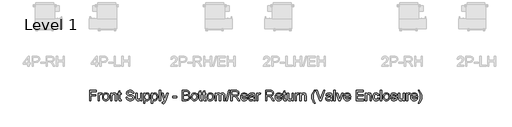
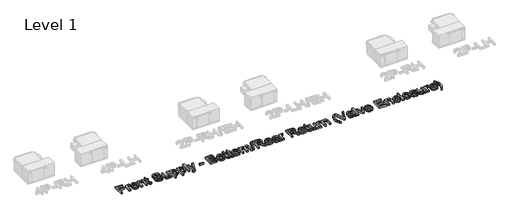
# One storey, part 4 of 5: 1 proxy.
"""IFC4 building model written with IfcOpenShell, lengths in millimetres."""

from ifc_helpers import new_model, si_unit, origin, origin_with_axes, place, context, project, spatial, polyline, outline, extrude, element, save

model = new_model("IFC4")

# Units and contexts
model_context = context("Model", 3, world=origin())
ifc_project = project(units=[si_unit("LENGTHUNIT", "METRE", prefix="MILLI")], contexts=[model_context])

# Site, building, storey
site = spatial("IfcSite", under=ifc_project)
building = spatial("IfcBuilding", under=site)
storey = spatial("IfcBuildingStorey", under=building, Name="Level 1", Elevation=0.0)

# Proxy
placement = place(None, origin())
element("IfcBuildingElementProxy", 1, Name="24\" Arial", ObjectType="24\" Arial", at=placement, inside=storey, context=model_context, shape_type="SweptSolid", body=[
    extrude(outline(polyline([(-10040.9186524, -10483.9809348), (-10040.9186524, -10179.4138407), (-9836.2876361, -10179.4138407), (-9836.2876361, -10217.4847274), (-10002.8477657, -10217.4847274), (-10002.8477657, -10307.9030835), (-9860.0819403, -10307.9030835), (-9860.0819403, -10345.9739703), (-10002.8477657, -10345.9739703), (-10002.8477657, -10483.9809348), (-10040.9186524, -10483.9809348)])), origin_with_axes(), (0.0, 0.0, 1.0), 50.8),
    extrude(outline(polyline([(-9788.6990277, -10483.9809348), (-9788.6990277, -10260.314475), (-9755.3870017, -10260.314475), (-9755.3870017, -10293.4034294), (-9743.080885, -10274.2192716), (-9731.7414119, -10262.9169771), (-9720.3647602, -10257.3959549), (-9707.9471077, -10255.5556142), (-9688.9860215, -10258.4927236), (-9669.7275065, -10267.3040519), (-9682.4425879, -10301.434007), (-9695.826884, -10295.5783775), (-9709.2111801, -10293.626501), (-9720.5785372, -10295.5040203), (-9730.7375897, -10301.1365782), (-9738.9447657, -10310.0966209), (-9744.4564932, -10321.9565944), (-9749.085229, -10343.2227538), (-9750.6281409, -10366.4222004), (-9750.6281409, -10483.9809348), (-9788.6990277, -10483.9809348)])), origin_with_axes(), (0.0, 0.0, 1.0), 50.8),
    extrude(outline(polyline([(-9655.450924, -10372.1477049), (-9653.392159, -10343.1809279), (-9647.215864, -10318.2201451), (-9636.9220391, -10297.2653565), (-9622.5106841, -10280.316562), (-9608.0017353, -10269.4836474), (-9591.9870532, -10261.7458512), (-9574.4666378, -10257.1031734), (-9555.4404891, -10255.5556142), (-9534.4369035, -10257.4401045), (-9515.4456097, -10263.0935754), (-9498.4666077, -10272.516027), (-9483.4998974, -10285.7074591), (-9471.2844035, -10302.2217286), (-9462.5590507, -10321.6126924), (-9457.3238391, -10343.8803503), (-9455.5787685, -10369.0247025), (-9458.6645924, -10407.4859645), (-9467.9220638, -10436.7641123), (-9483.0816381, -10458.6901919), (-9503.8737704, -10475.0952493), (-9528.5696557, -10485.328659), (-9555.4404891, -10488.7397956), (-9576.7507981, -10486.8622763), (-9595.9186902, -10481.2297183), (-9612.9441655, -10471.8421217), (-9627.8272239, -10458.6994865), (-9639.9125927, -10442.0248843), (-9648.544999, -10422.0413866), (-9653.7244428, -10398.7489935), (-9655.450924, -10372.1477049)]), holes=[polyline([(-9617.3800372, -10372.0733477), (-9612.9743731, -10406.5286156), (-9599.7573807, -10431.0757865), (-9579.8668295, -10445.7706282), (-9555.4404891, -10450.6689088), (-9531.1256844, -10445.7427443), (-9511.2723119, -10430.9642507), (-9498.0553194, -10406.091767), (-9493.6496553, -10370.8836325), (-9498.0832034, -10337.4321868), (-9511.3838477, -10313.2196233), (-9531.2651042, -10298.5247816), (-9555.4404891, -10293.626501), (-9579.8668295, -10298.5061923), (-9599.7573807, -10313.1452661), (-9612.9743731, -10337.6366691), (-9617.3800372, -10372.0733477)])]), origin_with_axes(), (0.0, 0.0, 1.0), 50.8),
    extrude(outline(polyline([(-9412.7490209, -10483.9809348), (-9412.7490209, -10260.314475), (-9374.6781342, -10260.314475), (-9374.6781342, -10291.5444993), (-9361.4518471, -10275.7993621), (-9345.5672901, -10264.5528355), (-9327.0244632, -10257.8049195), (-9305.8233663, -10255.5556142), (-9287.0574678, -10257.368071), (-9269.8716598, -10262.8054413), (-9255.5393093, -10271.1892157), (-9245.3337835, -10281.8408847), (-9233.9199532, -10309.8363707), (-9231.9123088, -10346.6431851), (-9231.9123088, -10483.9809348), (-9269.9831956, -10483.9809348), (-9269.9831956, -10351.7738319), (-9274.3702704, -10318.09002), (-9280.4396769, -10308.0610925), (-9289.8737468, -10300.2814704), (-9301.9660865, -10295.2902433), (-9316.0103028, -10293.626501), (-9338.3081684, -10297.3629503), (-9357.3157278, -10308.5722983), (-9364.9117806, -10317.7228813), (-9370.3375326, -10330.228833), (-9374.6781342, -10365.3068424), (-9374.6781342, -10483.9809348), (-9412.7490209, -10483.9809348)])), origin_with_axes(), (0.0, 0.0, 1.0), 50.8),
    extrude(outline(polyline([(-9098.6642052, -10452.2304101), (-9093.9053443, -10485.0962928), (-9122.3841522, -10488.7397956), (-9140.6574343, -10487.1597051), (-9154.2833913, -10482.4194335), (-9163.9126488, -10475.1138386), (-9170.1958322, -10465.8377778), (-9173.6534421, -10449.9067475), (-9174.8059787, -10422.6362442), (-9174.8059787, -10298.3853618), (-9203.3591438, -10298.3853618), (-9203.3591438, -10260.314475), (-9174.8059787, -10260.314475), (-9174.8059787, -10205.9593613), (-9136.7350919, -10183.5778439), (-9136.7350919, -10260.314475), (-9098.6642052, -10260.314475), (-9098.6642052, -10298.3853618), (-9136.7350919, -10298.3853618), (-9136.7350919, -10421.5208862), (-9134.7274475, -10441.1511872), (-9128.2211924, -10448.1035854), (-9115.2458609, -10450.6689088), (-9098.6642052, -10452.2304101)])), origin_with_axes(), (0.0, 0.0, 1.0), 50.8),
    extrude(outline(polyline([(-8951.139519, -10379.2859962), (-8913.0686322, -10379.2859962), (-8908.7001467, -10400.4127358), (-8900.7996941, -10417.3940615), (-8888.4749881, -10430.8713042), (-8870.8337422, -10441.4857946), (-8849.270154, -10448.3731303), (-8825.178421, -10450.6689088), (-8803.9680295, -10448.9308093), (-8785.3973186, -10443.7165106), (-8770.3492801, -10435.4628613), (-8759.7069058, -10424.60671), (-8753.3772491, -10412.1425842), (-8751.2673635, -10399.0650116), (-8752.847454, -10386.3220463), (-8757.5877256, -10375.3078859), (-8767.216983, -10365.9109947), (-8783.4640314, -10358.0198368), (-8838.8973245, -10343.483004), (-8875.2858796, -10333.8630412), (-8898.5689781, -10324.7078109), (-8917.5207696, -10311.899783), (-8930.951539, -10296.3777174), (-8938.9542327, -10278.4762213), (-8941.6217973, -10258.5299022), (-8938.3221965, -10236.2320367), (-8928.4233942, -10215.4399044), (-8912.1856405, -10197.8172479), (-8889.8691856, -10185.0278093), (-8863.082004, -10177.2481872), (-8833.4320703, -10174.6549798), (-8801.3097596, -10177.3690177), (-8773.2027377, -10185.5111311), (-8750.1148269, -10198.9140166), (-8733.0498493, -10217.4103702), (-8722.2494659, -10239.8476556), (-8717.9553376, -10265.0733359), (-8756.0262243, -10265.0733359), (-8763.0158012, -10242.3572111), (-8777.5898125, -10225.9614483), (-8800.3617053, -10216.034762), (-8831.9449263, -10212.7258666), (-8864.2717193, -10215.9975834), (-8886.4487544, -10225.8127339), (-8899.2753715, -10240.2566202), (-8903.5509105, -10257.4145442), (-8900.5208546, -10272.0443235), (-8891.4306868, -10283.8113505), (-8869.9414558, -10294.3328944), (-8829.268067, -10305.0775099), (-8787.2934272, -10315.2830357), (-8761.9004432, -10324.1873105), (-8740.1974352, -10337.9991605), (-8725.0564502, -10355.0455487), (-8716.1614701, -10375.1405822), (-8713.1964767, -10398.0983679), (-8716.6076133, -10421.5673594), (-8726.8410231, -10443.6421534), (-8743.4784467, -10462.6404182), (-8766.101625, -10476.8798221), (-8793.3070658, -10485.7748022), (-8823.691277, -10488.7397956), (-8860.9907078, -10485.542436), (-8891.690937, -10475.9503571), (-8916.1451614, -10459.9263803), (-8934.7065776, -10437.4333271), (-8946.622319, -10410.0326987), (-8951.139519, -10379.2859962)])), origin_with_axes(), (0.0, 0.0, 1.0), 50.8),
    extrude(outline(polyline([(-8518.0831821, -10483.9809348), (-8518.0831821, -10445.538262), (-8531.8578535, -10464.4389329), (-8547.9004196, -10477.9394122), (-8566.2108802, -10486.0396997), (-8586.7892355, -10488.7397956), (-8605.3320625, -10486.843687), (-8622.5922277, -10481.1553611), (-8637.0732925, -10472.604283), (-8647.2788183, -10462.1199177), (-8654.1475647, -10449.3862471), (-8658.6182914, -10434.0872531), (-8660.8490074, -10398.6932256), (-8660.8490074, -10260.314475), (-8622.7781207, -10260.314475), (-8622.7781207, -10380.7731402), (-8620.4730475, -10419.5875989), (-8614.9241414, -10432.5350465), (-8605.4157143, -10442.378081), (-8592.5798025, -10448.5962019), (-8577.0484423, -10450.6689088), (-8560.6247955, -10448.5497286), (-8545.260739, -10442.192188), (-8532.5921309, -10432.1818498), (-8524.2548298, -10419.1042771), (-8519.626094, -10401.1934864), (-8518.0831821, -10376.6834941), (-8518.0831821, -10260.314475), (-8480.0122953, -10260.314475), (-8480.0122953, -10483.9809348), (-8518.0831821, -10483.9809348)])), origin_with_axes(), (0.0, 0.0, 1.0), 50.8),
    extrude(outline(polyline([(-8427.664826, -10569.64043), (-8427.664826, -10260.314475), (-8389.5939393, -10260.314475), (-8389.5939393, -10297.6417898), (-8377.1762868, -10279.229088), (-8363.2714902, -10266.0771581), (-8347.0616205, -10258.1860002), (-8327.7287483, -10255.5556142), (-8301.9825676, -10259.2362956), (-8279.470925, -10270.2783399), (-8261.1418751, -10288.0125323), (-8247.943472, -10311.7696579), (-8239.9686622, -10339.8209119), (-8237.3103923, -10370.4374893), (-8240.3125642, -10402.9966485), (-8249.3190802, -10432.1167873), (-8264.0418059, -10456.3200561), (-8284.1926073, -10474.1286057), (-8307.6615988, -10485.0869981), (-8332.3388947, -10488.7397956), (-8349.8407209, -10486.2953026), (-8365.4650277, -10478.9618237), (-8378.8400291, -10467.8918955), (-8389.5939393, -10454.2380545), (-8389.5939393, -10569.64043), (-8427.664826, -10569.64043)]), holes=[polyline([(-8389.5939393, -10373.9322777), (-8385.4764093, -10408.0622328), (-8373.1238193, -10431.9308943), (-8354.8970105, -10445.9844052), (-8333.156824, -10450.6689088), (-8311.0634407, -10445.8171015), (-8292.3718994, -10431.2616795), (-8279.6289341, -10406.5193209), (-8275.381279, -10371.1067041), (-8279.526693, -10337.162642), (-8291.9629348, -10312.9593731), (-8310.1618596, -10298.459719), (-8331.5953227, -10293.626501), (-8353.1124377, -10298.7664425), (-8372.0084613, -10314.186267), (-8385.1975698, -10339.4026526), (-8389.5939393, -10373.9322777)])]), origin_with_axes(), (0.0, 0.0, 1.0), 50.8),
    extrude(outline(polyline([(-8194.4806446, -10569.64043), (-8194.4806446, -10260.314475), (-8156.4097579, -10260.314475), (-8156.4097579, -10297.6417898), (-8143.9921054, -10279.229088), (-8130.0873088, -10266.0771581), (-8113.8774391, -10258.1860002), (-8094.5445669, -10255.5556142), (-8068.7983862, -10259.2362956), (-8046.2867437, -10270.2783399), (-8027.9576937, -10288.0125323), (-8014.7592906, -10311.7696579), (-8006.7844808, -10339.8209119), (-8004.1262109, -10370.4374893), (-8007.1283828, -10402.9966485), (-8016.1348988, -10432.1167873), (-8030.8576245, -10456.3200561), (-8051.0084259, -10474.1286057), (-8074.4774174, -10485.0869981), (-8099.1547134, -10488.7397956), (-8116.6565395, -10486.2953026), (-8132.2808463, -10478.9618237), (-8145.6558477, -10467.8918955), (-8156.4097579, -10454.2380545), (-8156.4097579, -10569.64043), (-8194.4806446, -10569.64043)]), holes=[polyline([(-8156.4097579, -10373.9322777), (-8152.2922279, -10408.0622328), (-8139.9396379, -10431.9308943), (-8121.7128291, -10445.9844052), (-8099.9726426, -10450.6689088), (-8077.8792593, -10445.8171015), (-8059.187718, -10431.2616795), (-8046.4447527, -10406.5193209), (-8042.1970976, -10371.1067041), (-8046.3425116, -10337.162642), (-8058.7787534, -10312.9593731), (-8076.9776782, -10298.459719), (-8098.4111413, -10293.626501), (-8119.9282563, -10298.7664425), (-8138.8242799, -10314.186267), (-8152.0133884, -10339.4026526), (-8156.4097579, -10373.9322777)])]), origin_with_axes(), (0.0, 0.0, 1.0), 50.8),
    extrude(outline(polyline([(-7961.2964633, -10483.9809348), (-7961.2964633, -10179.4138407), (-7923.2255765, -10179.4138407), (-7923.2255765, -10483.9809348), (-7961.2964633, -10483.9809348)])), origin_with_axes(), (0.0, 0.0, 1.0), 50.8),
    extrude(outline(polyline([(-7866.1192464, -10569.64043), (-7870.8781072, -10532.98233), (-7851.545235, -10536.328404), (-7833.4764352, -10532.1272222), (-7822.3972123, -10520.4159631), (-7811.9872042, -10492.3832984), (-7809.0129162, -10483.1630055), (-7889.9135506, -10260.314475), (-7849.7606622, -10260.314475), (-7806.8565574, -10384.4910002), (-7791.9107601, -10434.1616103), (-7776.9649627, -10390.2908619), (-7732.8711427, -10260.314475), (-7693.0156831, -10260.314475), (-7770.8676723, -10489.3346532), (-7791.0928309, -10539.0052633), (-7801.447071, -10554.8619363), (-7813.1769195, -10565.8482127), (-7826.8028765, -10572.2615213), (-7842.8454425, -10574.3992908), (-7866.1192464, -10569.64043)])), origin_with_axes(), (0.0, 0.0, 1.0), 50.8),
    extrude(outline(polyline([(-7561.5521523, -10393.5625787), (-7561.5521523, -10355.4916919), (-7442.5806312, -10355.4916919), (-7442.5806312, -10393.5625787), (-7561.5521523, -10393.5625787)])), origin_with_axes(), (0.0, 0.0, 1.0), 50.8),
    extrude(outline(polyline([(-7276.0205016, -10483.9809348), (-7276.0205016, -10179.4138407), (-7159.8001969, -10179.4138407), (-7127.8358953, -10181.6538514), (-7102.8797598, -10188.3738834), (-7083.7513699, -10199.7412404), (-7069.2703051, -10215.9232262), (-7060.1522533, -10234.9586696), (-7057.1129027, -10254.8863994), (-7059.6689315, -10273.224744), (-7067.3370178, -10290.4663199), (-7080.1729296, -10305.551537), (-7098.2324347, -10317.4208052), (-7076.6595519, -10328.6859211), (-7060.719227, -10345.8252559), (-7050.8761925, -10367.7048622), (-7047.595181, -10393.1907927), (-7049.8351917, -10414.4290682), (-7056.5552237, -10434.1244317), (-7066.5841512, -10450.8733911), (-7078.7508481, -10463.2724544), (-7093.6501722, -10472.2510863), (-7111.8769811, -10478.7387521), (-7160.6924833, -10483.9809348), (-7276.0205016, -10483.9809348)]), holes=[polyline([(-7237.9496148, -10303.1442227), (-7168.4256322, -10303.1442227), (-7127.8266006, -10299.8725058), (-7113.6150806, -10294.2306532), (-7103.4002602, -10285.7818163), (-7097.2379072, -10274.6561201), (-7095.1837895, -10260.9836899), (-7097.0984874, -10247.7109295), (-7102.8425812, -10236.1483848), (-7112.1558206, -10227.1232796), (-7124.7779554, -10221.4628377), (-7173.7049934, -10217.4847274), (-7237.9496148, -10217.4847274), (-7237.9496148, -10303.1442227)]), polyline([(-7237.9496148, -10445.910048), (-7159.8745541, -10445.910048), (-7131.6188178, -10444.422904), (-7107.7129778, -10436.1320761), (-7091.8748941, -10419.2158129), (-7087.2182744, -10407.2628929), (-7085.6660678, -10393.5625787), (-7087.4878192, -10377.6501378), (-7092.9530735, -10363.9684128), (-7102.4986791, -10353.2702706), (-7116.5614847, -10346.3085777), (-7136.4799198, -10342.4884765), (-7163.5924141, -10341.2151094), (-7237.9496148, -10341.2151094), (-7237.9496148, -10445.910048)])]), origin_with_axes(), (0.0, 0.0, 1.0), 50.8),
    extrude(outline(polyline([(-7009.5242943, -10372.1477049), (-7007.4655293, -10343.1809279), (-7001.2892343, -10318.2201451), (-6990.9954093, -10297.2653565), (-6976.5840544, -10280.316562), (-6962.0751056, -10269.4836474), (-6946.0604235, -10261.7458512), (-6928.5400081, -10257.1031734), (-6909.5138593, -10255.5556142), (-6888.5102738, -10257.4401045), (-6869.51898, -10263.0935754), (-6852.539978, -10272.516027), (-6837.5732677, -10285.7074591), (-6825.3577738, -10302.2217286), (-6816.632421, -10321.6126924), (-6811.3972094, -10343.8803503), (-6809.6521388, -10369.0247025), (-6812.7379626, -10407.4859645), (-6821.9954341, -10436.7641123), (-6837.1550084, -10458.6901919), (-6857.9471407, -10475.0952493), (-6882.6430259, -10485.328659), (-6909.5138593, -10488.7397956), (-6930.8241683, -10486.8622763), (-6949.9920605, -10481.2297183), (-6967.0175358, -10471.8421217), (-6981.9005942, -10458.6994865), (-6993.985963, -10442.0248843), (-7002.6183693, -10422.0413866), (-7007.797813, -10398.7489935), (-7009.5242943, -10372.1477049)]), holes=[polyline([(-6971.4534075, -10372.0733477), (-6967.0477434, -10406.5286156), (-6953.830751, -10431.0757865), (-6933.9401998, -10445.7706282), (-6909.5138593, -10450.6689088), (-6885.1990547, -10445.7427443), (-6865.3456821, -10430.9642507), (-6852.1286897, -10406.091767), (-6847.7230256, -10370.8836325), (-6852.1565737, -10337.4321868), (-6865.4572179, -10313.2196233), (-6885.3384745, -10298.5247816), (-6909.5138593, -10293.626501), (-6933.9401998, -10298.5061923), (-6953.830751, -10313.1452661), (-6967.0477434, -10337.6366691), (-6971.4534075, -10372.0733477)])]), origin_with_axes(), (0.0, 0.0, 1.0), 50.8),
    extrude(outline(polyline([(-6685.9217568, -10452.2304101), (-6681.162896, -10485.0962928), (-6709.6417039, -10488.7397956), (-6727.9149859, -10487.1597051), (-6741.540943, -10482.4194335), (-6751.1702005, -10475.1138386), (-6757.4533839, -10465.8377778), (-6760.9109937, -10449.9067475), (-6762.0635304, -10422.6362442), (-6762.0635304, -10298.3853618), (-6790.6166954, -10298.3853618), (-6790.6166954, -10260.314475), (-6762.0635304, -10260.314475), (-6762.0635304, -10205.9593613), (-6723.9926436, -10183.5778439), (-6723.9926436, -10260.314475), (-6685.9217568, -10260.314475), (-6685.9217568, -10298.3853618), (-6723.9926436, -10298.3853618), (-6723.9926436, -10421.5208862), (-6721.9849992, -10441.1511872), (-6715.4787441, -10448.1035854), (-6702.5034126, -10450.6689088), (-6685.9217568, -10452.2304101)])), origin_with_axes(), (0.0, 0.0, 1.0), 50.8),
    extrude(outline(polyline([(-6566.9502357, -10452.2304101), (-6562.1913749, -10485.0962928), (-6590.6701827, -10488.7397956), (-6608.9434648, -10487.1597051), (-6622.5694218, -10482.4194335), (-6632.1986793, -10475.1138386), (-6638.4818628, -10465.8377778), (-6641.9394726, -10449.9067475), (-6643.0920092, -10422.6362442), (-6643.0920092, -10298.3853618), (-6671.6451743, -10298.3853618), (-6671.6451743, -10260.314475), (-6643.0920092, -10260.314475), (-6643.0920092, -10205.9593613), (-6605.0211225, -10183.5778439), (-6605.0211225, -10260.314475), (-6566.9502357, -10260.314475), (-6566.9502357, -10298.3853618), (-6605.0211225, -10298.3853618), (-6605.0211225, -10421.5208862), (-6603.0134781, -10441.1511872), (-6596.507223, -10448.1035854), (-6583.5318915, -10450.6689088), (-6566.9502357, -10452.2304101)])), origin_with_axes(), (0.0, 0.0, 1.0), 50.8),
    extrude(outline(polyline([(-6538.3970707, -10372.1477049), (-6536.3383057, -10343.1809279), (-6530.1620107, -10318.2201451), (-6519.8681857, -10297.2653565), (-6505.4568307, -10280.316562), (-6490.947882, -10269.4836474), (-6474.9331999, -10261.7458512), (-6457.4127844, -10257.1031734), (-6438.3866357, -10255.5556142), (-6417.3830502, -10257.4401045), (-6398.3917564, -10263.0935754), (-6381.4127543, -10272.516027), (-6366.446044, -10285.7074591), (-6354.2305502, -10302.2217286), (-6345.5051974, -10321.6126924), (-6340.2699857, -10343.8803503), (-6338.5249152, -10369.0247025), (-6341.610739, -10407.4859645), (-6350.8682105, -10436.7641123), (-6366.0277848, -10458.6901919), (-6386.819917, -10475.0952493), (-6411.5158023, -10485.328659), (-6438.3866357, -10488.7397956), (-6459.6969447, -10486.8622763), (-6478.8648368, -10481.2297183), (-6495.8903121, -10471.8421217), (-6510.7733706, -10458.6994865), (-6522.8587394, -10442.0248843), (-6531.4911456, -10422.0413866), (-6536.6705894, -10398.7489935), (-6538.3970707, -10372.1477049)]), holes=[polyline([(-6500.3261839, -10372.0733477), (-6495.9205198, -10406.5286156), (-6482.7035273, -10431.0757865), (-6462.8129761, -10445.7706282), (-6438.3866357, -10450.6689088), (-6414.0718311, -10445.7427443), (-6394.2184585, -10430.9642507), (-6381.0014661, -10406.091767), (-6376.5958019, -10370.8836325), (-6381.02935, -10337.4321868), (-6394.3299943, -10313.2196233), (-6414.2112508, -10298.5247816), (-6438.3866357, -10293.626501), (-6462.8129761, -10298.5061923), (-6482.7035273, -10313.1452661), (-6495.9205198, -10337.6366691), (-6500.3261839, -10372.0733477)])]), origin_with_axes(), (0.0, 0.0, 1.0), 50.8),
    extrude(outline(polyline([(-6295.6951676, -10483.9809348), (-6295.6951676, -10260.314475), (-6257.6242808, -10260.314475), (-6257.6242808, -10297.1212894), (-6246.1732719, -10280.2143209), (-6231.4505462, -10266.9694445), (-6213.9580147, -10258.4090718), (-6194.1975886, -10255.5556142), (-6173.0243757, -10258.4648397), (-6156.0523447, -10267.1925161), (-6143.3744419, -10281.1623752), (-6135.0836141, -10299.7981486), (-6121.2067015, -10280.4420398), (-6105.3779124, -10266.6162478), (-6087.5972468, -10258.3207726), (-6067.8647046, -10255.5556142), (-6039.246477, -10260.156466), (-6018.0825588, -10273.9590214), (-6005.0049861, -10297.3350663), (-6000.6457952, -10330.6563869), (-6000.6457952, -10483.9809348), (-6038.7166819, -10483.9809348), (-6038.7166819, -10347.0149711), (-6042.248649, -10315.2272678), (-6047.2119921, -10306.4624127), (-6055.0380875, -10299.575077), (-6065.1041935, -10295.113645), (-6076.7875687, -10293.626501), (-6097.4123972, -10297.4373075), (-6114.2264193, -10308.8697271), (-6125.4078833, -10328.7045104), (-6129.135038, -10357.722408), (-6129.135038, -10483.9809348), (-6167.2059248, -10483.9809348), (-6167.2059248, -10342.7766106), (-6169.4087568, -10321.250201), (-6176.017253, -10305.8954391), (-6187.6448603, -10296.6937355), (-6204.9050255, -10293.626501), (-6219.5719834, -10295.671324), (-6233.0864046, -10301.805793), (-6244.2399847, -10311.8811937), (-6251.8244192, -10325.7488117), (-6256.1743154, -10344.9887373), (-6257.6242808, -10371.1810613), (-6257.6242808, -10483.9809348), (-6295.6951676, -10483.9809348)])), origin_with_axes(), (0.0, 0.0, 1.0), 50.8),
    extrude(outline(polyline([(-5972.0926301, -10483.9809348), (-5886.4331349, -10179.4138407), (-5852.0801082, -10179.4138407), (-5937.7396034, -10483.9809348), (-5972.0926301, -10483.9809348)])), origin_with_axes(), (0.0, 0.0, 1.0), 50.8),
    extrude(outline(polyline([(-5819.8090831, -10483.9809348), (-5819.8090831, -10179.4138407), (-5688.5686238, -10179.4138407), (-5653.2954268, -10181.4679584), (-5627.6328979, -10187.6303114), (-5608.876294, -10199.0069631), (-5594.320872, -10216.7039768), (-5584.9797486, -10238.6486457), (-5581.8660408, -10262.7682627), (-5587.0245716, -10292.7713932), (-5602.500164, -10317.6438768), (-5614.2230415, -10327.7796927), (-5628.7575505, -10335.8799803), (-5666.2614636, -10345.9739703), (-5644.6235182, -10362.2581972), (-5613.7652799, -10401.444442), (-5562.9793119, -10483.9809348), (-5607.2218463, -10483.9809348), (-5646.8542343, -10420.8516714), (-5675.4817565, -10379.0629246), (-5695.5953793, -10359.3210878), (-5713.7013577, -10352.0712607), (-5735.7854463, -10350.7328311), (-5781.7381963, -10350.7328311), (-5781.7381963, -10483.9809348), (-5819.8090831, -10483.9809348)]), holes=[polyline([(-5781.7381963, -10312.6619443), (-5696.5248443, -10312.6619443), (-5672.0520306, -10311.3142201), (-5653.0630605, -10307.2710473), (-5638.7678887, -10300.2628811), (-5628.3764699, -10290.0201767), (-5622.0468132, -10277.6304082), (-5619.9369276, -10264.1810495), (-5623.9615111, -10245.6103386), (-5636.0352616, -10230.645952), (-5656.8088045, -10220.7750336), (-5686.9327654, -10217.4847274), (-5781.7381963, -10217.4847274), (-5781.7381963, -10312.6619443)])]), origin_with_axes(), (0.0, 0.0, 1.0), 50.8),
    extrude(outline(polyline([(-5363.4045852, -10417.3568829), (-5326.0772704, -10422.1157438), (-5339.5266291, -10450.2413549), (-5360.9879762, -10471.2658534), (-5389.9779898, -10484.3713101), (-5426.0133482, -10488.7397956), (-5449.6357014, -10486.8553053), (-5470.6834365, -10481.2018344), (-5489.1565535, -10471.7793829), (-5505.0550525, -10458.5879507), (-5517.8398437, -10441.9946766), (-5526.9718374, -10422.3666993), (-5532.4510337, -10399.7040187), (-5534.2774324, -10374.0066349), (-5532.4324444, -10347.4378776), (-5526.8974802, -10324.0200067), (-5517.67254, -10303.7530222), (-5504.7576237, -10286.6369241), (-5488.9009507, -10273.038851), (-5470.8507402, -10263.3259417), (-5450.6069923, -10257.4981961), (-5428.169707, -10255.5556142), (-5406.4550807, -10257.4935487), (-5386.8178088, -10263.3073524), (-5369.2578911, -10272.9970251), (-5353.7753277, -10286.5625669), (-5341.1369272, -10303.6414864), (-5332.1094983, -10323.8712923), (-5326.693041, -10347.2519846), (-5324.8875552, -10373.7835633), (-5325.1106268, -10384.044857), (-5496.2065456, -10384.044857), (-5489.6166387, -10412.5422542), (-5474.30835, -10433.4923955), (-5452.2149668, -10446.3747805), (-5425.2697762, -10450.6689088), (-5405.007439, -10448.6798537), (-5387.9424614, -10442.7126884), (-5374.0748435, -10432.3956268), (-5363.4045852, -10417.3568829)]), holes=[polyline([(-5496.2065456, -10345.9739703), (-5362.958442, -10345.9739703), (-5368.1076781, -10325.8603475), (-5378.2016681, -10311.4722291), (-5400.3972925, -10298.087933), (-5428.3184214, -10293.626501), (-5453.9809503, -10297.1863519), (-5475.2006364, -10307.8659049), (-5489.9512461, -10324.5126232), (-5496.2065456, -10345.9739703)])]), origin_with_axes(), (0.0, 0.0, 1.0), 50.8),
    extrude(outline(polyline([(-5144.0508431, -10455.4277697), (-5162.2404733, -10471.0241925), (-5180.9691933, -10481.2297183), (-5200.6645568, -10486.8622763), (-5221.7541179, -10488.7397956), (-5253.5697051, -10484.2225957), (-5277.0386966, -10470.6709958), (-5291.5104668, -10450.0926405), (-5296.3343902, -10424.4951742), (-5294.5126387, -10408.7128583), (-5289.0473845, -10394.3805079), (-5280.6171369, -10382.1115698), (-5269.9004053, -10372.5194909), (-5243.2433489, -10360.0274812), (-5210.3031089, -10354.3019767), (-5171.3771144, -10348.2790435), (-5144.2739147, -10341.2151094), (-5144.0508431, -10332.7383885), (-5146.6719344, -10315.7477682), (-5154.5352084, -10304.6313667), (-5172.1206864, -10296.3777174), (-5196.621384, -10293.626501), (-5219.3003302, -10295.457547), (-5235.138414, -10300.9506852), (-5245.9387974, -10311.1097378), (-5253.5046426, -10326.9385269), (-5291.5755293, -10322.179666), (-5284.9670331, -10301.3596498), (-5275.1054094, -10285.0010657), (-5261.0704877, -10272.4904667), (-5241.9420978, -10263.2144059), (-5218.5474636, -10257.4703121), (-5191.7138088, -10255.5556142), (-5165.9769227, -10257.2472405), (-5145.5751657, -10262.3221195), (-5130.1925198, -10269.9530272), (-5119.5129669, -10279.3127398), (-5112.4304435, -10290.8845792), (-5107.8388864, -10305.1518671), (-5105.9799564, -10338.463893), (-5105.9799564, -10385.8294298), (-5104.0466691, -10451.9701599), (-5096.4622347, -10483.9809348), (-5134.5331214, -10483.9809348), (-5140.6304119, -10470.745353), (-5144.0508431, -10455.4277697)]), holes=[polyline([(-5144.0508431, -10379.2859962), (-5205.4698909, -10390.9600767), (-5238.2242378, -10397.1317243), (-5253.0584993, -10407.1699464), (-5258.2635034, -10421.818315), (-5255.4286351, -10433.1391988), (-5246.9240303, -10442.4152596), (-5232.9355819, -10448.6054965), (-5213.649183, -10450.6689088), (-5193.2009528, -10448.3917196), (-5175.132153, -10441.5601518), (-5160.4837845, -10431.4940457), (-5150.296848, -10419.5132417), (-5145.779648, -10407.1699464), (-5144.2739147, -10390.0677903), (-5144.0508431, -10379.2859962)])]), origin_with_axes(), (0.0, 0.0, 1.0), 50.8),
    extrude(outline(polyline([(-5053.6324871, -10483.9809348), (-5053.6324871, -10260.314475), (-5020.3204612, -10260.314475), (-5020.3204612, -10293.4034294), (-5008.0143444, -10274.2192716), (-4996.6748713, -10262.9169771), (-4985.2982196, -10257.3959549), (-4972.8805671, -10255.5556142), (-4953.9194809, -10258.4927236), (-4934.6609659, -10267.3040519), (-4947.3760473, -10301.434007), (-4960.7603434, -10295.5783775), (-4974.1446395, -10293.626501), (-4985.5119966, -10295.5040203), (-4995.6710491, -10301.1365782), (-5003.8782252, -10310.0966209), (-5009.3899527, -10321.9565944), (-5014.0186884, -10343.2227538), (-5015.5616003, -10366.4222004), (-5015.5616003, -10483.9809348), (-5053.6324871, -10483.9809348)])), origin_with_axes(), (0.0, 0.0, 1.0), 50.8),
    extrude(outline(polyline([(-4787.1362798, -10483.9809348), (-4787.1362798, -10179.4138407), (-4655.8958205, -10179.4138407), (-4620.6226234, -10181.4679584), (-4594.9600945, -10187.6303114), (-4576.2034907, -10199.0069631), (-4561.6480686, -10216.7039768), (-4552.3069453, -10238.6486457), (-4549.1932375, -10262.7682627), (-4554.3517683, -10292.7713932), (-4569.8273607, -10317.6438768), (-4581.5502381, -10327.7796927), (-4596.0847472, -10335.8799803), (-4633.5886603, -10345.9739703), (-4611.9507149, -10362.2581972), (-4581.0924766, -10401.444442), (-4530.3065085, -10483.9809348), (-4574.549043, -10483.9809348), (-4614.1814309, -10420.8516714), (-4642.8089532, -10379.0629246), (-4662.922576, -10359.3210878), (-4681.0285544, -10352.0712607), (-4703.112643, -10350.7328311), (-4749.065393, -10350.7328311), (-4749.065393, -10483.9809348), (-4787.1362798, -10483.9809348)]), holes=[polyline([(-4749.065393, -10312.6619443), (-4663.852041, -10312.6619443), (-4639.3792273, -10311.3142201), (-4620.3902572, -10307.2710473), (-4606.0950854, -10300.2628811), (-4595.7036666, -10290.0201767), (-4589.3740098, -10277.6304082), (-4587.2641243, -10264.1810495), (-4591.2887078, -10245.6103386), (-4603.3624582, -10230.645952), (-4624.1360012, -10220.7750336), (-4654.2599621, -10217.4847274), (-4749.065393, -10217.4847274), (-4749.065393, -10312.6619443)])]), origin_with_axes(), (0.0, 0.0, 1.0), 50.8),
    extrude(outline(polyline([(-4330.7317819, -10417.3568829), (-4293.4044671, -10422.1157438), (-4306.8538258, -10450.2413549), (-4328.3151728, -10471.2658534), (-4357.3051865, -10484.3713101), (-4393.3405449, -10488.7397956), (-4416.962898, -10486.8553053), (-4438.0106332, -10481.2018344), (-4456.4837502, -10471.7793829), (-4472.3822492, -10458.5879507), (-4485.1670404, -10441.9946766), (-4494.2990341, -10422.3666993), (-4499.7782303, -10399.7040187), (-4501.6046291, -10374.0066349), (-4499.759641, -10347.4378776), (-4494.2246769, -10324.0200067), (-4484.9997367, -10303.7530222), (-4472.0848204, -10286.6369241), (-4456.2281473, -10273.038851), (-4438.1779369, -10263.3259417), (-4417.934189, -10257.4981961), (-4395.4969037, -10255.5556142), (-4373.7822774, -10257.4935487), (-4354.1450054, -10263.3073524), (-4336.5850878, -10272.9970251), (-4321.1025244, -10286.5625669), (-4308.4641239, -10303.6414864), (-4299.436695, -10323.8712923), (-4294.0202377, -10347.2519846), (-4292.2147519, -10373.7835633), (-4292.4378235, -10384.044857), (-4463.5337423, -10384.044857), (-4456.9438354, -10412.5422542), (-4441.6355467, -10433.4923955), (-4419.5421634, -10446.3747805), (-4392.5969728, -10450.6689088), (-4372.3346357, -10448.6798537), (-4355.2696581, -10442.7126884), (-4341.4020402, -10432.3956268), (-4330.7317819, -10417.3568829)]), holes=[polyline([(-4463.5337423, -10345.9739703), (-4330.2856387, -10345.9739703), (-4335.4348748, -10325.8603475), (-4345.5288648, -10311.4722291), (-4367.7244892, -10298.087933), (-4395.6456181, -10293.626501), (-4421.308147, -10297.1863519), (-4442.5278331, -10307.8659049), (-4457.2784428, -10324.5126232), (-4463.5337423, -10345.9739703)])]), origin_with_axes(), (0.0, 0.0, 1.0), 50.8),
    extrude(outline(polyline([(-4173.2432308, -10452.2304101), (-4168.4843699, -10485.0962928), (-4196.9631778, -10488.7397956), (-4215.2364599, -10487.1597051), (-4228.8624169, -10482.4194335), (-4238.4916744, -10475.1138386), (-4244.7748579, -10465.8377778), (-4248.2324677, -10449.9067475), (-4249.3850043, -10422.6362442), (-4249.3850043, -10298.3853618), (-4277.9381694, -10298.3853618), (-4277.9381694, -10260.314475), (-4249.3850043, -10260.314475), (-4249.3850043, -10205.9593613), (-4211.3141175, -10183.5778439), (-4211.3141175, -10260.314475), (-4173.2432308, -10260.314475), (-4173.2432308, -10298.3853618), (-4211.3141175, -10298.3853618), (-4211.3141175, -10421.5208862), (-4209.3064731, -10441.1511872), (-4202.8002181, -10448.1035854), (-4189.8248865, -10450.6689088), (-4173.2432308, -10452.2304101)])), origin_with_axes(), (0.0, 0.0, 1.0), 50.8),
    extrude(outline(polyline([(-3992.4065187, -10483.9809348), (-3992.4065187, -10445.538262), (-4006.1811901, -10464.4389329), (-4022.2237562, -10477.9394122), (-4040.5342168, -10486.0396997), (-4061.1125721, -10488.7397956), (-4079.655399, -10486.843687), (-4096.9155643, -10481.1553611), (-4111.3966291, -10472.604283), (-4121.6021549, -10462.1199177), (-4128.4709013, -10449.3862471), (-4132.941628, -10434.0872531), (-4135.172344, -10398.6932256), (-4135.172344, -10260.314475), (-4097.1014573, -10260.314475), (-4097.1014573, -10380.7731402), (-4094.796384, -10419.5875989), (-4089.2474779, -10432.5350465), (-4079.7390509, -10442.378081), (-4066.9031391, -10448.5962019), (-4051.3717788, -10450.6689088), (-4034.9481321, -10448.5497286), (-4019.5840755, -10442.192188), (-4006.9154675, -10432.1818498), (-3998.5781663, -10419.1042771), (-3993.9494306, -10401.1934864), (-3992.4065187, -10376.6834941), (-3992.4065187, -10260.314475), (-3954.3356319, -10260.314475), (-3954.3356319, -10483.9809348), (-3992.4065187, -10483.9809348)])), origin_with_axes(), (0.0, 0.0, 1.0), 50.8),
    extrude(outline(polyline([(-3901.9881626, -10483.9809348), (-3901.9881626, -10260.314475), (-3868.6761367, -10260.314475), (-3868.6761367, -10293.4034294), (-3856.37002, -10274.2192716), (-3845.0305469, -10262.9169771), (-3833.6538952, -10257.3959549), (-3821.2362427, -10255.5556142), (-3802.2751565, -10258.4927236), (-3783.0166415, -10267.3040519), (-3795.7317228, -10301.434007), (-3809.1160189, -10295.5783775), (-3822.5003151, -10293.626501), (-3833.8676721, -10295.5040203), (-3844.0267247, -10301.1365782), (-3852.2339007, -10310.0966209), (-3857.7456282, -10321.9565944), (-3862.374364, -10343.2227538), (-3863.9172759, -10366.4222004), (-3863.9172759, -10483.9809348), (-3901.9881626, -10483.9809348)])), origin_with_axes(), (0.0, 0.0, 1.0), 50.8),
    extrude(outline(polyline([(-3759.2223373, -10483.9809348), (-3759.2223373, -10260.314475), (-3721.1514505, -10260.314475), (-3721.1514505, -10291.5444993), (-3707.9251634, -10275.7993621), (-3692.0406064, -10264.5528355), (-3673.4977795, -10257.8049195), (-3652.2966827, -10255.5556142), (-3633.5307841, -10257.368071), (-3616.3449761, -10262.8054413), (-3602.0126257, -10271.1892157), (-3591.8070999, -10281.8408847), (-3580.3932696, -10309.8363707), (-3578.3856252, -10346.6431851), (-3578.3856252, -10483.9809348), (-3616.4565119, -10483.9809348), (-3616.4565119, -10351.7738319), (-3620.8435868, -10318.09002), (-3626.9129933, -10308.0610925), (-3636.3470631, -10300.2814704), (-3648.4394029, -10295.2902433), (-3662.4836192, -10293.626501), (-3684.7814847, -10297.3629503), (-3703.7890442, -10308.5722983), (-3711.3850969, -10317.7228813), (-3716.8108489, -10330.228833), (-3721.1514505, -10365.3068424), (-3721.1514505, -10483.9809348), (-3759.2223373, -10483.9809348)])), origin_with_axes(), (0.0, 0.0, 1.0), 50.8),
    extrude(outline(polyline([(-3330.9248612, -10569.64043), (-3360.4260806, -10528.2420585), (-3384.9825462, -10480.3374319), (-3401.5456126, -10428.2502128), (-3407.0666348, -10374.3040637), (-3402.9398101, -10326.9942948), (-3390.5593362, -10281.7293489), (-3365.9842814, -10230.460059), (-3330.9248612, -10179.4138407), (-3302.3716962, -10179.4138407), (-3337.9887953, -10239.7175305), (-3359.4036691, -10298.1622902), (-3366.5977283, -10336.2517663), (-3368.995748, -10374.5271353), (-3364.8317448, -10423.3333429), (-3352.339735, -10472.1209612), (-3331.5197189, -10520.8899903), (-3302.3716962, -10569.64043), (-3330.9248612, -10569.64043)])), origin_with_axes(), (0.0, 0.0, 1.0), 50.8),
    extrude(outline(polyline([(-3169.5697357, -10483.9809348), (-3290.7719729, -10179.4138407), (-3250.0242269, -10179.4138407), (-3168.9005209, -10398.84194), (-3152.4675796, -10448.2894784), (-3136.2577098, -10398.84194), (-3054.9109322, -10179.4138407), (-3014.1631863, -10179.4138407), (-3130.2347766, -10483.9809348), (-3169.5697357, -10483.9809348)])), origin_with_axes(), (0.0, 0.0, 1.0), 50.8),
    extrude(outline(polyline([(-2840.7621942, -10455.4277697), (-2858.9518245, -10471.0241925), (-2877.6805444, -10481.2297183), (-2897.3759079, -10486.8622763), (-2918.465469, -10488.7397956), (-2950.2810562, -10484.2225957), (-2973.7500477, -10470.6709958), (-2988.2218179, -10450.0926405), (-2993.0457413, -10424.4951742), (-2991.2239898, -10408.7128583), (-2985.7587356, -10394.3805079), (-2977.328488, -10382.1115698), (-2966.6117564, -10372.5194909), (-2939.9547, -10360.0274812), (-2907.0144601, -10354.3019767), (-2868.0884655, -10348.2790435), (-2840.9852658, -10341.2151094), (-2840.7621942, -10332.7383885), (-2843.3832856, -10315.7477682), (-2851.2465595, -10304.6313667), (-2868.8320375, -10296.3777174), (-2893.3327351, -10293.626501), (-2916.0116813, -10295.457547), (-2931.8497651, -10300.9506852), (-2942.6501485, -10311.1097378), (-2950.2159937, -10326.9385269), (-2988.2868804, -10322.179666), (-2981.6783842, -10301.3596498), (-2971.8167605, -10285.0010657), (-2957.7818388, -10272.4904667), (-2938.653449, -10263.2144059), (-2915.2588147, -10257.4703121), (-2888.4251599, -10255.5556142), (-2862.6882738, -10257.2472405), (-2842.2865168, -10262.3221195), (-2826.9038709, -10269.9530272), (-2816.224318, -10279.3127398), (-2809.1417946, -10290.8845792), (-2804.5502375, -10305.1518671), (-2802.6913075, -10338.463893), (-2802.6913075, -10385.8294298), (-2800.7580203, -10451.9701599), (-2793.1735858, -10483.9809348), (-2831.2444725, -10483.9809348), (-2837.341763, -10470.745353), (-2840.7621942, -10455.4277697)]), holes=[polyline([(-2840.7621942, -10379.2859962), (-2902.181242, -10390.9600767), (-2934.9355889, -10397.1317243), (-2949.7698505, -10407.1699464), (-2954.9748545, -10421.818315), (-2952.1399862, -10433.1391988), (-2943.6353814, -10442.4152596), (-2929.646933, -10448.6054965), (-2910.3605341, -10450.6689088), (-2889.9123039, -10448.3917196), (-2871.8435041, -10441.5601518), (-2857.1951356, -10431.4940457), (-2847.0081991, -10419.5132417), (-2842.4909991, -10407.1699464), (-2840.9852658, -10390.0677903), (-2840.7621942, -10379.2859962)])]), origin_with_axes(), (0.0, 0.0, 1.0), 50.8),
    extrude(outline(polyline([(-2750.3438382, -10483.9809348), (-2750.3438382, -10179.4138407), (-2712.2729514, -10179.4138407), (-2712.2729514, -10483.9809348), (-2750.3438382, -10483.9809348)])), origin_with_axes(), (0.0, 0.0, 1.0), 50.8),
    extrude(outline(polyline([(-2600.2910072, -10483.9809348), (-2678.9609255, -10260.314475), (-2638.6593227, -10260.314475), (-2590.9963571, -10394.3061507), (-2576.6454173, -10439.3666143), (-2562.5919064, -10396.8342955), (-2514.631512, -10260.314475), (-2474.3299092, -10260.314475), (-2552.0331839, -10483.9809348), (-2600.2910072, -10483.9809348)])), origin_with_axes(), (0.0, 0.0, 1.0), 50.8),
    extrude(outline(polyline([(-2284.4216186, -10417.3568829), (-2247.0943038, -10422.1157438), (-2260.5436625, -10450.2413549), (-2282.0050096, -10471.2658534), (-2310.9950232, -10484.3713101), (-2347.0303816, -10488.7397956), (-2370.6527348, -10486.8553053), (-2391.7004699, -10481.2018344), (-2410.1735869, -10471.7793829), (-2426.0720859, -10458.5879507), (-2438.8568771, -10441.9946766), (-2447.9888708, -10422.3666993), (-2453.4680671, -10399.7040187), (-2455.2944658, -10374.0066349), (-2453.4494778, -10347.4378776), (-2447.9145136, -10324.0200067), (-2438.6895734, -10303.7530222), (-2425.7746571, -10286.6369241), (-2409.9179841, -10273.038851), (-2391.8677736, -10263.3259417), (-2371.6240257, -10257.4981961), (-2349.1867404, -10255.5556142), (-2327.4721141, -10257.4935487), (-2307.8348422, -10263.3073524), (-2290.2749245, -10272.9970251), (-2274.7923611, -10286.5625669), (-2262.1539606, -10303.6414864), (-2253.1265317, -10323.8712923), (-2247.7100744, -10347.2519846), (-2245.9045886, -10373.7835633), (-2246.1276602, -10384.044857), (-2417.223579, -10384.044857), (-2410.6336721, -10412.5422542), (-2395.3253834, -10433.4923955), (-2373.2320002, -10446.3747805), (-2346.2868096, -10450.6689088), (-2326.0244724, -10448.6798537), (-2308.9594948, -10442.7126884), (-2295.0918769, -10432.3956268), (-2284.4216186, -10417.3568829)]), holes=[polyline([(-2417.223579, -10345.9739703), (-2283.9754754, -10345.9739703), (-2289.1247115, -10325.8603475), (-2299.2187015, -10311.4722291), (-2321.4143259, -10298.087933), (-2349.3354548, -10293.626501), (-2374.9979837, -10297.1863519), (-2396.2176698, -10307.8659049), (-2410.9682795, -10324.5126232), (-2417.223579, -10345.9739703)])]), origin_with_axes(), (0.0, 0.0, 1.0), 50.8),
    extrude(outline(polyline([(-2084.1033199, -10483.9809348), (-2084.1033199, -10179.4138407), (-1865.195721, -10179.4138407), (-1865.195721, -10217.4847274), (-2046.0324331, -10217.4847274), (-2046.0324331, -10307.9030835), (-1874.7134427, -10307.9030835), (-1874.7134427, -10345.9739703), (-2046.0324331, -10345.9739703), (-2046.0324331, -10445.910048), (-1860.4368602, -10445.910048), (-1860.4368602, -10483.9809348), (-2084.1033199, -10483.9809348)])), origin_with_axes(), (0.0, 0.0, 1.0), 50.8),
    extrude(outline(polyline([(-1808.0893909, -10483.9809348), (-1808.0893909, -10260.314475), (-1770.0185041, -10260.314475), (-1770.0185041, -10291.5444993), (-1756.7922171, -10275.7993621), (-1740.9076601, -10264.5528355), (-1722.3648331, -10257.8049195), (-1701.1637363, -10255.5556142), (-1682.3978378, -10257.368071), (-1665.2120298, -10262.8054413), (-1650.8796793, -10271.1892157), (-1640.6741535, -10281.8408847), (-1629.2603232, -10309.8363707), (-1627.2526788, -10346.6431851), (-1627.2526788, -10483.9809348), (-1665.3235656, -10483.9809348), (-1665.3235656, -10351.7738319), (-1669.7106404, -10318.09002), (-1675.7800469, -10308.0610925), (-1685.2141167, -10300.2814704), (-1697.3064565, -10295.2902433), (-1711.3506728, -10293.626501), (-1733.6485384, -10297.3629503), (-1752.6560978, -10308.5722983), (-1760.2521506, -10317.7228813), (-1765.6779026, -10330.228833), (-1770.0185041, -10365.3068424), (-1770.0185041, -10483.9809348), (-1808.0893909, -10483.9809348)])), origin_with_axes(), (0.0, 0.0, 1.0), 50.8),
    extrude(outline(polyline([(-1432.1393842, -10403.0803004), (-1394.0684974, -10407.8391612), (-1404.6829878, -10441.6995715), (-1424.6293069, -10467.2877432), (-1452.0299354, -10483.3767825), (-1485.0073539, -10488.7397956), (-1506.3594888, -10486.8692473), (-1525.5041443, -10481.2576023), (-1542.4413204, -10471.9048606), (-1557.1710171, -10458.8110223), (-1569.0937295, -10442.2223956), (-1577.6099527, -10422.3852886), (-1582.7196866, -10399.2997015), (-1584.4229312, -10372.9656341), (-1581.5137057, -10339.0866345), (-1572.7860293, -10309.7248349), (-1558.1004821, -10286.0141825), (-1537.3176446, -10269.0886247), (-1512.4544556, -10258.9388668), (-1485.5278543, -10255.5556142), (-1453.3590703, -10260.2029392), (-1427.6407735, -10274.1449144), (-1409.1908931, -10296.6379676), (-1398.8273582, -10326.9385269), (-1436.898245, -10331.6973877), (-1443.80417, -10315.087848), (-1454.5580802, -10303.1814013), (-1468.5651179, -10296.015226), (-1485.2304255, -10293.626501), (-1509.8333642, -10298.3295939), (-1529.3614241, -10312.4388727), (-1542.1043893, -10336.7164988), (-1546.3520444, -10371.9246333), (-1542.1973358, -10407.606795), (-1529.7332101, -10431.9680729), (-1510.558347, -10445.9936998), (-1486.2714263, -10450.6689088), (-1466.5574734, -10447.7503887), (-1450.3940769, -10438.9948283), (-1438.6363446, -10424.1791561), (-1432.1393842, -10403.0803004)])), origin_with_axes(), (0.0, 0.0, 1.0), 50.8),
    extrude(outline(polyline([(-1360.7564715, -10483.9809348), (-1360.7564715, -10179.4138407), (-1322.6855847, -10179.4138407), (-1322.6855847, -10483.9809348), (-1360.7564715, -10483.9809348)])), origin_with_axes(), (0.0, 0.0, 1.0), 50.8),
    extrude(outline(polyline([(-1275.0969763, -10372.1477049), (-1273.0382113, -10343.1809279), (-1266.8619163, -10318.2201451), (-1256.5680913, -10297.2653565), (-1242.1567364, -10280.316562), (-1227.6477876, -10269.4836474), (-1211.6331055, -10261.7458512), (-1194.1126901, -10257.1031734), (-1175.0865413, -10255.5556142), (-1154.0829558, -10257.4401045), (-1135.091662, -10263.0935754), (-1118.11266, -10272.516027), (-1103.1459497, -10285.7074591), (-1090.9304558, -10302.2217286), (-1082.205103, -10321.6126924), (-1076.9698914, -10343.8803503), (-1075.2248208, -10369.0247025), (-1078.3106446, -10407.4859645), (-1087.5681161, -10436.7641123), (-1102.7276904, -10458.6901919), (-1123.5198227, -10475.0952493), (-1148.2157079, -10485.328659), (-1175.0865413, -10488.7397956), (-1196.3968503, -10486.8622763), (-1215.5647425, -10481.2297183), (-1232.5902178, -10471.8421217), (-1247.4732762, -10458.6994865), (-1259.558645, -10442.0248843), (-1268.1910513, -10422.0413866), (-1273.370495, -10398.7489935), (-1275.0969763, -10372.1477049)]), holes=[polyline([(-1237.0260895, -10372.0733477), (-1232.6204254, -10406.5286156), (-1219.403433, -10431.0757865), (-1199.5128818, -10445.7706282), (-1175.0865413, -10450.6689088), (-1150.7717367, -10445.7427443), (-1130.9183641, -10430.9642507), (-1117.7013717, -10406.091767), (-1113.2957076, -10370.8836325), (-1117.7292557, -10337.4321868), (-1131.0298999, -10313.2196233), (-1150.9111565, -10298.5247816), (-1175.0865413, -10293.626501), (-1199.5128818, -10298.5061923), (-1219.403433, -10313.1452661), (-1232.6204254, -10337.6366691), (-1237.0260895, -10372.0733477)])]), origin_with_axes(), (0.0, 0.0, 1.0), 50.8),
    extrude(outline(polyline([(-1046.6716557, -10417.3568829), (-1008.600769, -10412.5980221), (-1002.596425, -10428.882249), (-990.9781124, -10440.8537583), (-973.6714739, -10448.2151212), (-950.6021524, -10450.6689088), (-927.8116704, -10448.4196035), (-911.7876937, -10441.6716876), (-902.3071506, -10431.8937157), (-899.1469695, -10420.5542426), (-902.3257399, -10410.8506279), (-911.8620509, -10403.4520864), (-951.0482956, -10392.5959351), (-1008.3776974, -10373.9694563), (-1022.8866462, -10364.6097437), (-1033.3988954, -10352.2199751), (-1039.78432, -10337.5901959), (-1041.9127949, -10321.5104512), (-1040.2025793, -10306.7598415), (-1035.0719324, -10293.1431792), (-1026.9855868, -10281.1995538), (-1016.408275, -10271.4680552), (-992.2050062, -10260.2029392), (-959.4506593, -10255.5556142), (-934.6711222, -10257.4238389), (-913.1261233, -10263.0285129), (-895.8008955, -10271.8212519), (-883.6806718, -10283.2536715), (-875.6500941, -10298.1715849), (-870.5938045, -10317.4208052), (-908.6646912, -10322.179666), (-913.4700253, -10310.1988621), (-922.9784524, -10301.1737568), (-937.2829189, -10295.5133149), (-956.4763713, -10293.626501), (-978.3373883, -10295.4296631), (-992.9113996, -10300.8391494), (-1001.109281, -10308.6466555), (-1003.8419081, -10317.6438768), (-999.3061189, -10328.7230997), (-985.1038936, -10337.1254634), (-952.312368, -10345.2303982), (-896.4329317, -10363.1504836), (-881.6730274, -10371.720151), (-870.4822687, -10383.4499994), (-863.4276293, -10398.3772074), (-861.0760828, -10416.5389537), (-863.8365939, -10435.3141469), (-872.1181271, -10452.9739821), (-885.6046644, -10468.1335564), (-903.9801876, -10479.4079669), (-926.175812, -10486.4068384), (-951.1226528, -10488.7397956), (-989.5095577, -10484.241185), (-1017.5236331, -10470.745353), (-1036.224469, -10448.4010142), (-1046.6716557, -10417.3568829)])), origin_with_axes(), (0.0, 0.0, 1.0), 50.8),
    extrude(outline(polyline([(-675.4805098, -10483.9809348), (-675.4805098, -10445.538262), (-689.2551813, -10464.4389329), (-705.2977473, -10477.9394122), (-723.608208, -10486.0396997), (-744.1865633, -10488.7397956), (-762.7293902, -10486.843687), (-779.9895554, -10481.1553611), (-794.4706203, -10472.604283), (-804.6761461, -10462.1199177), (-811.5448925, -10449.3862471), (-816.0156192, -10434.0872531), (-818.2463352, -10398.6932256), (-818.2463352, -10260.314475), (-780.1754484, -10260.314475), (-780.1754484, -10380.7731402), (-777.8703752, -10419.5875989), (-772.3214691, -10432.5350465), (-762.8130421, -10442.378081), (-749.9771303, -10448.5962019), (-734.44577, -10450.6689088), (-718.0221233, -10448.5497286), (-702.6580667, -10442.192188), (-689.9894586, -10432.1818498), (-681.6521575, -10419.1042771), (-677.0234218, -10401.1934864), (-675.4805098, -10376.6834941), (-675.4805098, -10260.314475), (-637.4096231, -10260.314475), (-637.4096231, -10483.9809348), (-675.4805098, -10483.9809348)])), origin_with_axes(), (0.0, 0.0, 1.0), 50.8),
    extrude(outline(polyline([(-585.0621538, -10483.9809348), (-585.0621538, -10260.314475), (-551.7501279, -10260.314475), (-551.7501279, -10293.4034294), (-539.4440112, -10274.2192716), (-528.104538, -10262.9169771), (-516.7278863, -10257.3959549), (-504.3102338, -10255.5556142), (-485.3491476, -10258.4927236), (-466.0906327, -10267.3040519), (-478.805714, -10301.434007), (-492.1900101, -10295.5783775), (-505.5743062, -10293.626501), (-516.9416633, -10295.5040203), (-527.1007158, -10301.1365782), (-535.3078919, -10310.0966209), (-540.8196194, -10321.9565944), (-545.4483551, -10343.2227538), (-546.991267, -10366.4222004), (-546.991267, -10483.9809348), (-585.0621538, -10483.9809348)])), origin_with_axes(), (0.0, 0.0, 1.0), 50.8),
    extrude(outline(polyline([(-285.7000638, -10417.3568829), (-248.372749, -10422.1157438), (-261.8221077, -10450.2413549), (-283.2834547, -10471.2658534), (-312.2734684, -10484.3713101), (-348.3088268, -10488.7397956), (-371.93118, -10486.8553053), (-392.9789151, -10481.2018344), (-411.4520321, -10471.7793829), (-427.3505311, -10458.5879507), (-440.1353223, -10441.9946766), (-449.267316, -10422.3666993), (-454.7465122, -10399.7040187), (-456.572911, -10374.0066349), (-454.7279229, -10347.4378776), (-449.1929588, -10324.0200067), (-439.9680186, -10303.7530222), (-427.0531023, -10286.6369241), (-411.1964292, -10273.038851), (-393.1462188, -10263.3259417), (-372.9024709, -10257.4981961), (-350.4651856, -10255.5556142), (-328.7505593, -10257.4935487), (-309.1132873, -10263.3073524), (-291.5533697, -10272.9970251), (-276.0708063, -10286.5625669), (-263.4324058, -10303.6414864), (-254.4049769, -10323.8712923), (-248.9885196, -10347.2519846), (-247.1830338, -10373.7835633), (-247.4061054, -10384.044857), (-418.5020242, -10384.044857), (-411.9121173, -10412.5422542), (-396.6038286, -10433.4923955), (-374.5104454, -10446.3747805), (-347.5652547, -10450.6689088), (-327.3029176, -10448.6798537), (-310.23794, -10442.7126884), (-296.3703221, -10432.3956268), (-285.7000638, -10417.3568829)]), holes=[polyline([(-418.5020242, -10345.9739703), (-285.2539206, -10345.9739703), (-290.4031567, -10325.8603475), (-300.4971467, -10311.4722291), (-322.6927711, -10298.087933), (-350.6139, -10293.626501), (-376.2764289, -10297.1863519), (-397.496115, -10307.8659049), (-412.2467247, -10324.5126232), (-418.5020242, -10345.9739703)])]), origin_with_axes(), (0.0, 0.0, 1.0), 50.8),
    extrude(outline(polyline([(-199.5944254, -10569.64043), (-228.1475904, -10569.64043), (-198.9995678, -10520.8899903), (-178.1795516, -10472.1209612), (-165.6875418, -10423.3333429), (-161.5235386, -10374.5271353), (-163.9215583, -10336.5306058), (-171.1156175, -10298.831505), (-180.2057853, -10268.9584996), (-192.3074197, -10240.3123881), (-228.1475904, -10179.4138407), (-199.5944254, -10179.4138407), (-164.5350052, -10230.460059), (-139.9599504, -10281.7293489), (-127.5794765, -10326.9942948), (-123.4526518, -10374.3040637), (-129.0015579, -10428.2502128), (-145.6482762, -10480.3374319), (-170.2326257, -10528.2420585), (-199.5944254, -10569.64043)])), origin_with_axes(), (0.0, 0.0, 1.0), 50.8),
])

save(model, "model.ifc")
